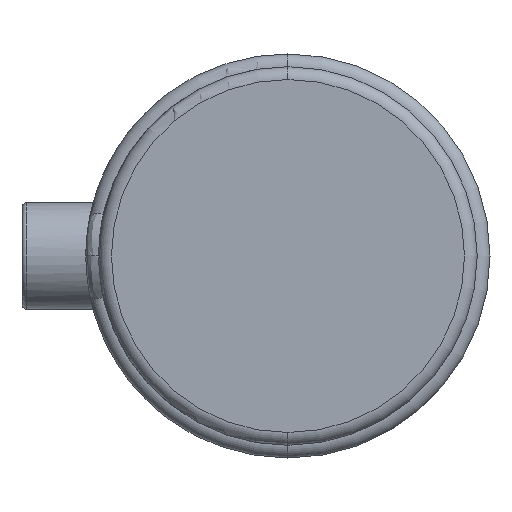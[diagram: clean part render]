
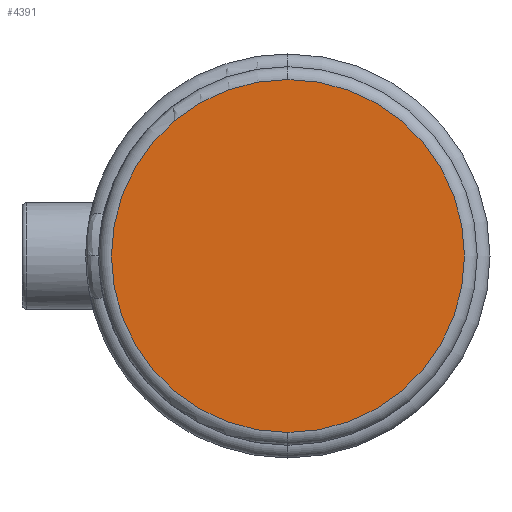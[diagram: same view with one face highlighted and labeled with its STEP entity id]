
A CAD part, left-side view. The second image highlights one B-rep face of the part: STEP entity #4391.
In plain terms, the highlighted planar face has unit normal (-1, 0, 0).
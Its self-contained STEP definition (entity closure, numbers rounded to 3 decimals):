
#342 = EDGE_CURVE ( 'NONE', #5161, #707, #5521, .T. ) ;
#692 = ORIENTED_EDGE ( 'NONE', *, *, #342, .T. ) ;
#707 = VERTEX_POINT ( 'NONE', #2257 ) ;
#916 = AXIS2_PLACEMENT_3D ( 'NONE', #4851, #4853, #4872 ) ;
#1331 = CIRCLE ( 'NONE', #2884, 41.45 ) ;
#1552 = CARTESIAN_POINT ( 'NONE',  ( 0., 0., 41.45 ) ) ;
#2059 = ORIENTED_EDGE ( 'NONE', *, *, #2116, .T. ) ;
#2114 = CARTESIAN_POINT ( 'NONE',  ( 0., 0., 0. ) ) ;
#2116 = EDGE_CURVE ( 'NONE', #707, #5161, #1331, .T. ) ;
#2237 = CARTESIAN_POINT ( 'NONE',  ( 0., 0., 0. ) ) ;
#2257 = CARTESIAN_POINT ( 'NONE',  ( 0., 0., -41.45 ) ) ;
#2576 = DIRECTION ( 'NONE',  ( 0., 0., 1. ) ) ;
#2696 = DIRECTION ( 'NONE',  ( -1., 0., 0. ) ) ;
#2884 = AXIS2_PLACEMENT_3D ( 'NONE', #2114, #5345, #2576 ) ;
#3634 = FACE_OUTER_BOUND ( 'NONE', #4525, .T. ) ;
#4391 = ADVANCED_FACE ( 'NONE', ( #3634 ), #4483, .T. ) ;
#4479 = AXIS2_PLACEMENT_3D ( 'NONE', #2237, #2696, #5942 ) ;
#4483 = PLANE ( 'NONE',  #4479 ) ;
#4525 = EDGE_LOOP ( 'NONE', ( #692, #2059 ) ) ;
#4851 = CARTESIAN_POINT ( 'NONE',  ( 0., 0., 0. ) ) ;
#4853 = DIRECTION ( 'NONE',  ( -1., 0., 0. ) ) ;
#4872 = DIRECTION ( 'NONE',  ( 0., 0., 1. ) ) ;
#5161 = VERTEX_POINT ( 'NONE', #1552 ) ;
#5345 = DIRECTION ( 'NONE',  ( -1., 0., 0. ) ) ;
#5521 = CIRCLE ( 'NONE', #916, 41.45 ) ;
#5942 = DIRECTION ( 'NONE',  ( 0., 0., 1. ) ) ;
